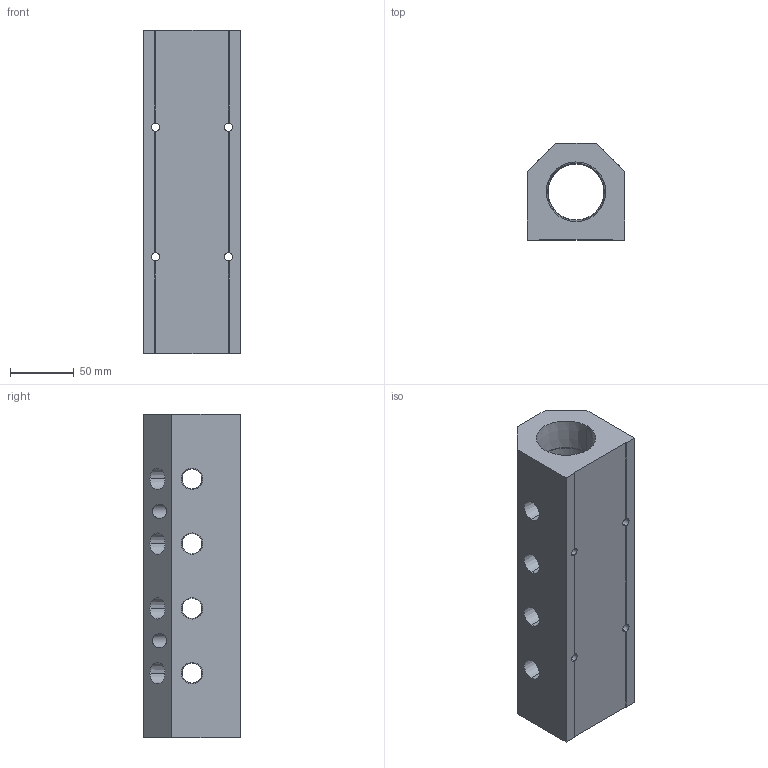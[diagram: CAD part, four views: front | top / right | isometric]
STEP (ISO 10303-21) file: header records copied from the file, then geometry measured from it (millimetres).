
FILE_DESCRIPTION (( 'STEP AP214' ), '1' );
FILE_NAME ('ALM4ABCDE-N6N24-254R.step', '2022-02-07T07:57:59', ( '' ), ( '' ), 'SwSTEP 2.0', 'SolidWorks 2020', '' );
FILE_SCHEMA (( 'AUTOMOTIVE_DESIGN' ));
Length unit declared in the file: millimetre
Products named in the file (1): ALM4ABCDE-N6N24-254R
Bounding box: 76.2 x 76.2 x 254 mm (x, y, z)
Volume: 870798.7 mm3; surface area: 127900.9 mm2
Topology: 1 solids, 1 shells, 382 faces, 1026 edges, 676 vertices
Faces by surface type: plane 259, bspline 61, cone 44, cylinder 18
Entity records: 21379 total; most frequent: CARTESIAN_POINT 8510, ORIENTED_EDGE 2052, DIRECTION 1568, EDGE_CURVE 1026, LINE 772, VECTOR 772, VERTEX_POINT 676, EDGE_LOOP 462
